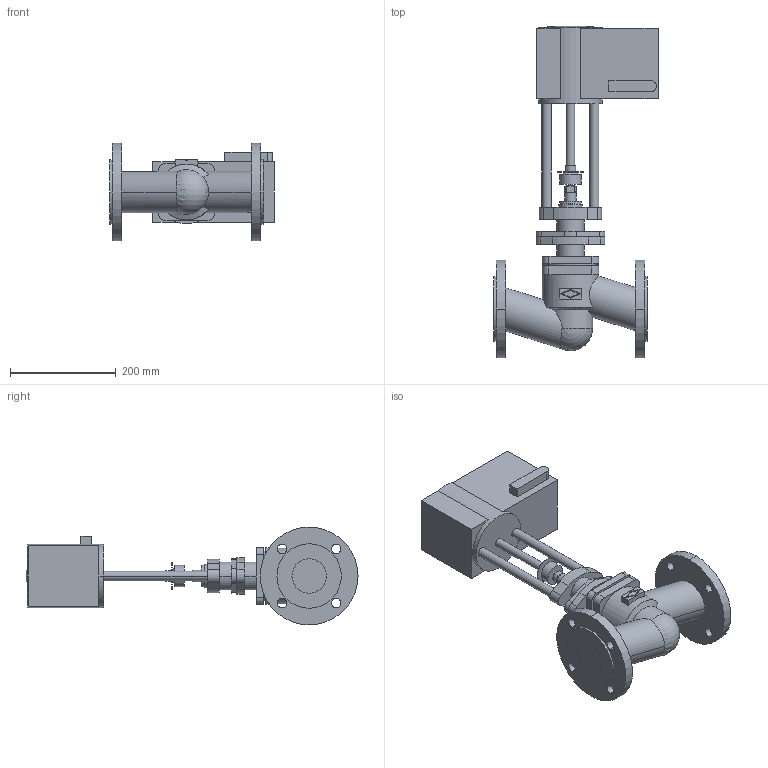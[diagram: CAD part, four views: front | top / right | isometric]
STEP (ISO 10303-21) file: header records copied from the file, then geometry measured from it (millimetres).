
FILE_DESCRIPTION(('Creo Elements/Direct Modeling STEP Export'),'2;1');
FILE_NAME('c000005073.stp','2013-06-04T 9:38:53',(''),(''),'Creo Elements/Direct Modeling STEP processor for AP203 (Solid Model)','Creo Elements/Direct Modeling 17.0D 15-Jul-2011 (C) Parametric Technology GmbH','');
FILE_SCHEMA(('CONFIG_CONTROL_DESIGN'));
Length unit declared in the file: millimetre
Products named in the file (5): AnbauteileVentilM14; DN65; FR1.2
Assembly tree (2 placements, depth 2):
  AnbauteileVentilM14
    AnbauteileVentilM14
  DN65
  FR1.2
    FR1.2
Bounding box: 311 x 628.5 x 185 mm (x, y, z)
Volume: 7479036.8 mm3; surface area: 494292.4 mm2
Topology: 3 solids, 3 shells, 222 faces, 529 edges, 337 vertices
Faces by surface type: cylinder 98, plane 83, cone 22, torus 16, sphere 3
Entity records: 6902 total; most frequent: CARTESIAN_POINT 1450, ORIENTED_EDGE 1050, DIRECTION 988, EDGE_CURVE 525, AXIS2_PLACEMENT_3D 374, VERTEX_POINT 337, EDGE_LOOP 268, VECTOR 240
